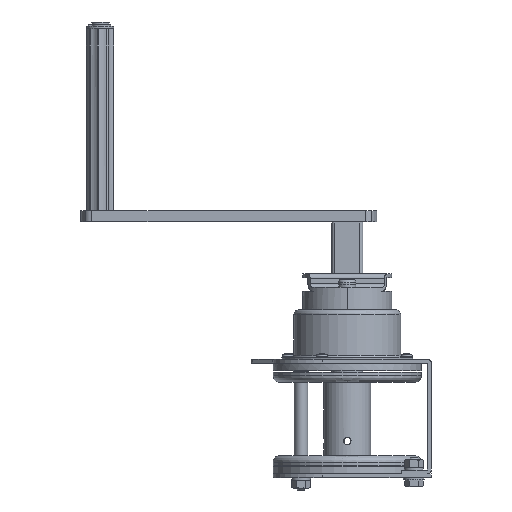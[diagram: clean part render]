
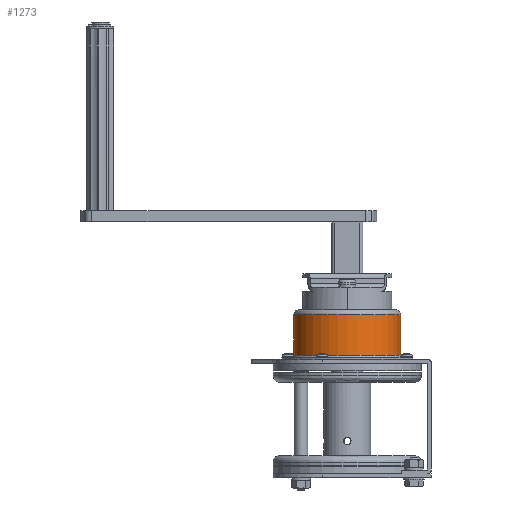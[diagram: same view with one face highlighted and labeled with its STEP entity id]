
A CAD part, left-side view. The second image highlights one B-rep face of the part: STEP entity #1273.
In plain terms, the highlighted cylindrical face has radius 43.2 mm (diameter 86.4 mm), a partial arc.
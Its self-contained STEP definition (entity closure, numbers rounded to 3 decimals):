
#1273=ADVANCED_FACE('',(#13405),#13404,.T.);
#13404=CYLINDRICAL_SURFACE('',#23901,43.2);
#13405=FACE_OUTER_BOUND('',#23902,.T.);
#23898=CARTESIAN_POINT('',(248.495,-52.675,-137.704));
#23899=DIRECTION('',(0.,0.,1.));
#23900=DIRECTION('',(0.,1.,0.));
#23901=AXIS2_PLACEMENT_3D('',#23898,#23899,#23900);
#23902=EDGE_LOOP('',(#32868,#32869,#32870,#32871));
#32868=ORIENTED_EDGE('',*,*,#38175,.T.);
#32869=ORIENTED_EDGE('',*,*,#38141,.F.);
#32870=ORIENTED_EDGE('',*,*,#38176,.F.);
#32871=ORIENTED_EDGE('',*,*,#38042,.T.);
#38042=EDGE_CURVE('',#60727,#60708,#60728,.T.);
#38141=EDGE_CURVE('',#60589,#61373,#61386,.T.);
#38175=EDGE_CURVE('',#60708,#61373,#61614,.T.);
#38176=EDGE_CURVE('',#60727,#60589,#61620,.T.);
#60589=VERTEX_POINT('',#79343);
#60708=VERTEX_POINT('',#79434);
#60727=VERTEX_POINT('',#79446);
#60728=LINE('',#79447,#79448);
#61373=VERTEX_POINT('',#79879);
#61386=LINE('',#79887,#79888);
#61614=CIRCLE('',#80060,43.2);
#61620=CIRCLE('',#80064,43.2);
#79343=CARTESIAN_POINT('',(248.495,-9.475,-174.504));
#79434=CARTESIAN_POINT('',(248.495,-95.875,-141.704));
#79446=CARTESIAN_POINT('',(248.495,-95.875,-174.504));
#79447=CARTESIAN_POINT('',(248.495,-95.875,-174.504));
#79448=VECTOR('',#79449,32.8);
#79449=DIRECTION('',(0.,0.,1.));
#79879=CARTESIAN_POINT('',(248.495,-9.475,-141.704));
#79887=CARTESIAN_POINT('',(248.495,-9.475,-174.504));
#79888=VECTOR('',#79889,32.8);
#79889=DIRECTION('',(0.,0.,1.));
#80057=CARTESIAN_POINT('',(248.495,-52.675,-141.704));
#80058=DIRECTION('',(0.,0.,-1.));
#80059=DIRECTION('',(0.,1.,0.));
#80060=AXIS2_PLACEMENT_3D('',#80057,#80058,#80059);
#80061=CARTESIAN_POINT('',(248.495,-52.675,-174.504));
#80062=DIRECTION('',(0.,0.,-1.));
#80063=DIRECTION('',(0.,1.,0.));
#80064=AXIS2_PLACEMENT_3D('',#80061,#80062,#80063);
